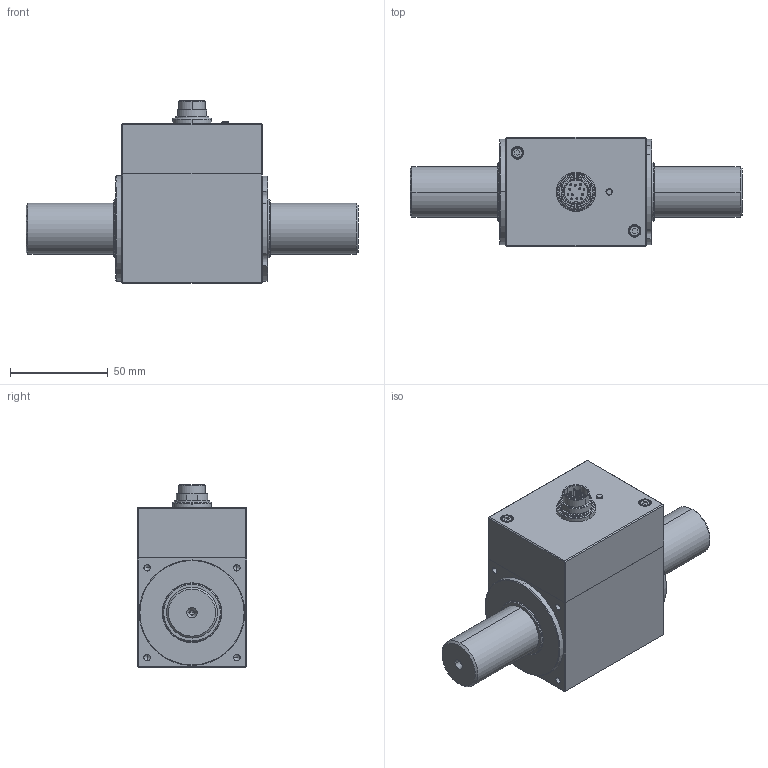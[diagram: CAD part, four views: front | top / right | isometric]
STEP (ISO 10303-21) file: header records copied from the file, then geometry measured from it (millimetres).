
FILE_DESCRIPTION((''),'2;1');
FILE_NAME('1_T210_50NM','2021-11-08T',('TMarzahn'),(''),'CREO PARAMETRIC BY PTC INC, 2018220','CREO PARAMETRIC BY PTC INC, 2018220','');
FILE_SCHEMA(('CONFIG_CONTROL_DESIGN'));
Length unit declared in the file: millimetre
Products named in the file (1): 1_T210_50NM
Bounding box: 170 x 56 x 93.56 mm (x, y, z)
Volume: 393756.1 mm3; surface area: 39894.3 mm2
Topology: 1 solids, 1 shells, 344 faces, 879 edges, 534 vertices
Faces by surface type: bspline 344
Entity records: 22329 total; most frequent: CARTESIAN_POINT 12749, ORIENTED_EDGE 1670, DIRECTION 1132, EDGE_CURVE 835, VERTEX_POINT 534, VECTOR 446, LINE 446, EDGE_LOOP 391
